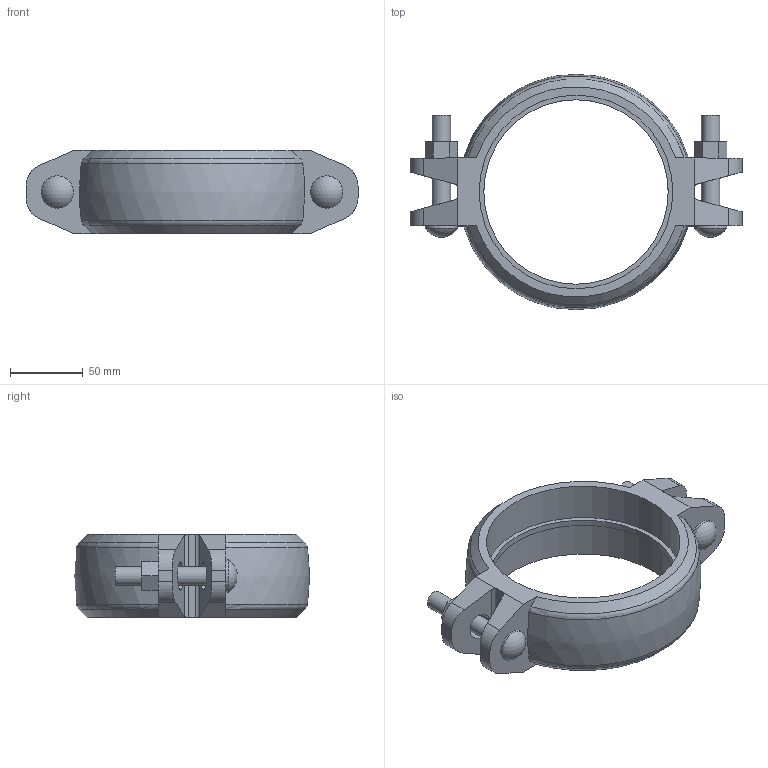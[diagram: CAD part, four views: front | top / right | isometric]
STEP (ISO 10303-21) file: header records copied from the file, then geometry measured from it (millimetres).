
FILE_DESCRIPTION(/* description */ ('VICTAULIC STYLE 009N FIRELOCK EZ RIGID COUPLING','CAx-IF Rec.Pracs.---Representation and Presentation of Product Manufacturing Information (PMI)---4.0---2014-10-13'),/* implementation_level */ '2;1');
FILE_NAME(/* name */ 'C:\Users\Vjadhav\AppData\Roaming\Autodesk\ApplicationPlugins\Victaulic.Temp\A361\Victaulic_FP-FireLock_Coupling Rigid_IR_Style 009N (OGS)_05.0 (133.0) (125).stp',/* time_stamp */ '2022-03-23T18:55:09+05:00',/* author */ ('Vjadhav'),/* organization */ ('Victaulic'),/* preprocessor_version */ 'ST-DEVELOPER v17.2',/* originating_system */ 'Autodesk Inventor 2019',/* authorisation */ '');
FILE_SCHEMA (('AP242_MANAGED_MODEL_BASED_3D_ENGINEERING_MIM_LF { 1 0 10303 442 1 1 4 }'));
Length unit declared in the file: inch
Products named in the file (2): 009N-05.0 (133); 009N-05.25 (133)
Assembly tree (1 placements, depth 2):
  009N-05.0 (133)
    009N-05.25 (133)
Bounding box: 228.6 x 162.05 x 57.15 mm (x, y, z)
Volume: 450475.8 mm3; surface area: 87096.2 mm2
Topology: 1 solids, 1 shells, 95 faces, 263 edges, 178 vertices
Faces by surface type: plane 54, cylinder 29, cone 4, torus 4, sphere 2, bspline 2
Full cylindrical faces by diameter (mm): 12.7 x4, 22.225 x2, 127 x1, 133.35 x2
Entity records: 3403 total; most frequent: CARTESIAN_POINT 723, DIRECTION 529, ORIENTED_EDGE 526, EDGE_CURVE 263, AXIS2_PLACEMENT_3D 190, VERTEX_POINT 178, LINE 149, VECTOR 149
